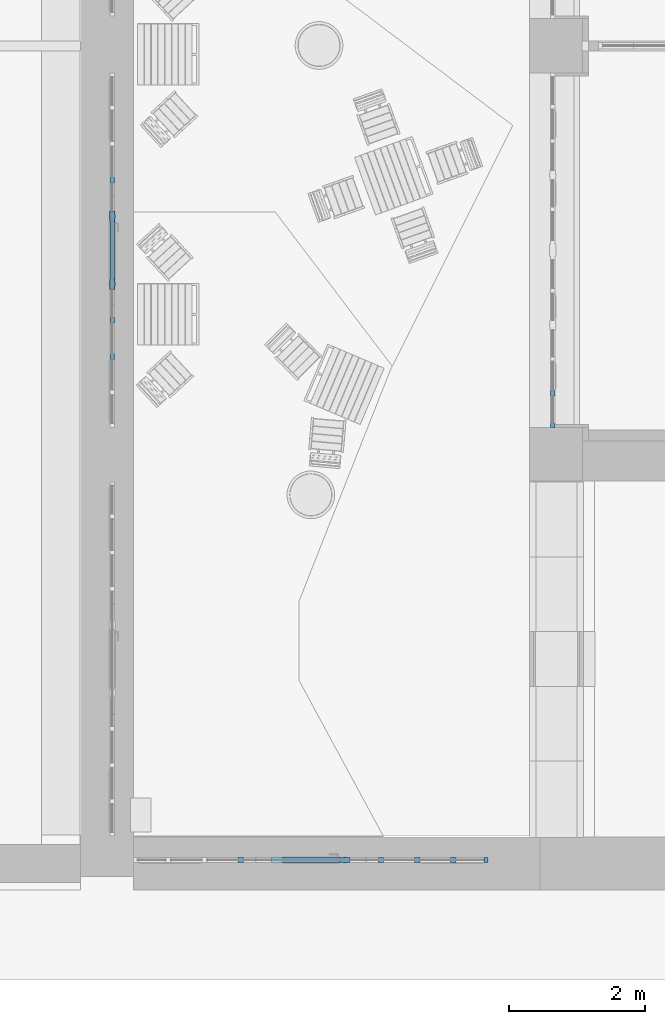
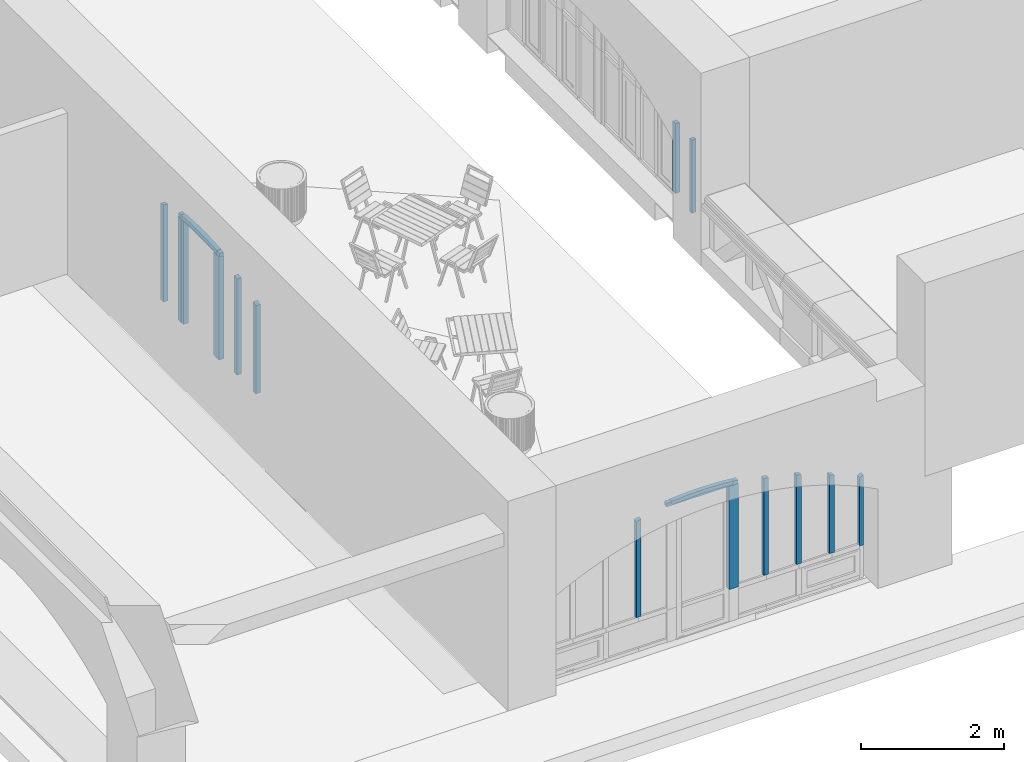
# One storey, part 3 of 88: 17 members, 3 elements without a shape of their own.
"""IFC2X3 building model written with IfcOpenShell, lengths in millimetres."""

from ifc_helpers import new_model, entity, si_unit, converted_unit, derived_unit, direction, frame, frame_2d, origin, place, context, subcontext, project, spatial, polyline, circle_curve, parameter, trimmed, segment, composite_curve, rectangle, outline, extrude, source, transform, mapped, material, type_object, type_shapes, element, aggregate, save


model = new_model("IFC2X3")

# Units and contexts
model_context = context("Model", 3, precision=0.01, world=origin(), true_north=direction((6.123031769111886e-17, 1.0)))
body_context = subcontext(model_context, "Body", "Model", "MODEL_VIEW")
ifc_project = project(units=[si_unit("LENGTHUNIT", "METRE", prefix="MILLI"), si_unit("AREAUNIT", "SQUARE_METRE"), si_unit("VOLUMEUNIT", "CUBIC_METRE"), converted_unit("PLANEANGLEUNIT", "DEGREE", entity("IfcPlaneAngleMeasure", 0.017453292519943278), si_unit("PLANEANGLEUNIT", "RADIAN"), dimensions=[0, 0, 0, 0, 0, 0, 0]), si_unit("MASSUNIT", "GRAM", prefix="KILO"), derived_unit("MASSDENSITYUNIT", [(si_unit("MASSUNIT", "GRAM", prefix="KILO"), 1), (si_unit("LENGTHUNIT", "METRE"), -3)]), derived_unit("IONCONCENTRATIONUNIT", [(si_unit("MASSUNIT", "GRAM", prefix="KILO"), 1), (si_unit("LENGTHUNIT", "METRE"), -3)]), derived_unit("MOMENTOFINERTIAUNIT", [(si_unit("LENGTHUNIT", "METRE"), 4)]), si_unit("TIMEUNIT", "SECOND"), si_unit("FREQUENCYUNIT", "HERTZ"), si_unit("THERMODYNAMICTEMPERATUREUNIT", "DEGREE_CELSIUS"), derived_unit("THERMALTRANSMITTANCEUNIT", [(si_unit("MASSUNIT", "GRAM", prefix="KILO"), 1), (si_unit("THERMODYNAMICTEMPERATUREUNIT", "KELVIN"), -1), (si_unit("TIMEUNIT", "SECOND"), -3)]), derived_unit("THERMALCONDUCTANCEUNIT", [(si_unit("MASSUNIT", "GRAM", prefix="KILO"), 1), (si_unit("THERMODYNAMICTEMPERATUREUNIT", "KELVIN"), -1), (si_unit("TIMEUNIT", "SECOND"), -3), (si_unit("LENGTHUNIT", "METRE"), 1)]), derived_unit("VOLUMETRICFLOWRATEUNIT", [(si_unit("LENGTHUNIT", "METRE", prefix="DECI"), 3), (si_unit("TIMEUNIT", "SECOND"), -1)]), derived_unit("MASSFLOWRATEUNIT", [(si_unit("MASSUNIT", "GRAM", prefix="KILO"), 1), (si_unit("TIMEUNIT", "SECOND"), -1)]), derived_unit("ROTATIONALFREQUENCYUNIT", [(si_unit("TIMEUNIT", "SECOND"), -1)]), si_unit("ELECTRICCURRENTUNIT", "AMPERE"), si_unit("ELECTRICVOLTAGEUNIT", "VOLT"), si_unit("POWERUNIT", "WATT"), si_unit("FORCEUNIT", "NEWTON", prefix="KILO"), si_unit("ILLUMINANCEUNIT", "LUX"), si_unit("LUMINOUSFLUXUNIT", "LUMEN"), si_unit("LUMINOUSINTENSITYUNIT", "CANDELA"), si_unit("ENERGYUNIT", "JOULE"), derived_unit("USERDEFINED", [(si_unit("MASSUNIT", "GRAM", prefix="KILO"), -1), (si_unit("LENGTHUNIT", "METRE"), -2), (si_unit("TIMEUNIT", "SECOND"), 3), (si_unit("LUMINOUSFLUXUNIT", "LUMEN"), 1)]), derived_unit("USERDEFINED", [(si_unit("MASSUNIT", "GRAM", prefix="KILO"), 1), (si_unit("TIMEUNIT", "SECOND"), -3), (si_unit("LENGTHUNIT", "METRE"), 3), (si_unit("ELECTRICCURRENTUNIT", "AMPERE"), -2)]), derived_unit("SOUNDPOWERUNIT", [(si_unit("MASSUNIT", "GRAM", prefix="KILO"), 1), (si_unit("TIMEUNIT", "SECOND"), -3), (si_unit("LENGTHUNIT", "METRE"), 2)]), derived_unit("SOUNDPRESSUREUNIT", [(si_unit("MASSUNIT", "GRAM", prefix="KILO"), 1), (si_unit("LENGTHUNIT", "METRE"), -1), (si_unit("TIMEUNIT", "SECOND"), -2)]), derived_unit("LINEARVELOCITYUNIT", [(si_unit("LENGTHUNIT", "METRE"), 1), (si_unit("TIMEUNIT", "SECOND"), -1)]), si_unit("PRESSUREUNIT", "PASCAL"), derived_unit("USERDEFINED", [(si_unit("MASSUNIT", "GRAM", prefix="KILO"), 1), (si_unit("LENGTHUNIT", "METRE"), -2), (si_unit("TIMEUNIT", "SECOND"), -2)]), derived_unit("LINEARFORCEUNIT", [(si_unit("MASSUNIT", "GRAM", prefix="KILO"), 1), (si_unit("TIMEUNIT", "SECOND"), -2)]), derived_unit("PLANARFORCEUNIT", [(si_unit("MASSUNIT", "GRAM", prefix="KILO"), 1), (si_unit("LENGTHUNIT", "METRE"), -1), (si_unit("TIMEUNIT", "SECOND"), -2)]), derived_unit("SPECIFICHEATCAPACITYUNIT", [(si_unit("THERMODYNAMICTEMPERATUREUNIT", "KELVIN"), -1), (si_unit("LENGTHUNIT", "METRE"), 2), (si_unit("TIMEUNIT", "SECOND"), -2)]), derived_unit("HEATFLUXDENSITYUNIT", [(si_unit("MASSUNIT", "GRAM", prefix="KILO"), 1), (si_unit("TIMEUNIT", "SECOND"), -3)]), derived_unit("HEATINGVALUEUNIT", [(si_unit("LENGTHUNIT", "METRE"), 2), (si_unit("TIMEUNIT", "SECOND"), -2)]), derived_unit("VAPORPERMEABILITYUNIT", [(si_unit("LENGTHUNIT", "METRE"), -1), (si_unit("TIMEUNIT", "SECOND"), 1)]), derived_unit("DYNAMICVISCOSITYUNIT", [(si_unit("MASSUNIT", "GRAM", prefix="KILO"), 1), (si_unit("TIMEUNIT", "SECOND"), -1), (si_unit("LENGTHUNIT", "METRE"), -1)]), derived_unit("THERMALEXPANSIONCOEFFICIENTUNIT", [(si_unit("THERMODYNAMICTEMPERATUREUNIT", "KELVIN"), -1)]), derived_unit("MODULUSOFELASTICITYUNIT", [(si_unit("MASSUNIT", "GRAM", prefix="KILO"), 1), (si_unit("LENGTHUNIT", "METRE"), -1), (si_unit("TIMEUNIT", "SECOND"), -2)]), derived_unit("ISOTHERMALMOISTURECAPACITYUNIT", [(si_unit("MASSUNIT", "GRAM", prefix="KILO"), -1), (si_unit("LENGTHUNIT", "METRE"), 3)]), derived_unit("MOISTUREDIFFUSIVITYUNIT", [(si_unit("TIMEUNIT", "SECOND"), -1), (si_unit("LENGTHUNIT", "METRE"), 2)]), derived_unit("MASSPERLENGTHUNIT", [(si_unit("MASSUNIT", "GRAM", prefix="KILO"), 1), (si_unit("LENGTHUNIT", "METRE"), -1)]), derived_unit("THERMALRESISTANCEUNIT", [(si_unit("MASSUNIT", "GRAM", prefix="KILO"), -1), (si_unit("TIMEUNIT", "SECOND"), 3), (si_unit("THERMODYNAMICTEMPERATUREUNIT", "KELVIN"), 1)]), derived_unit("ACCELERATIONUNIT", [(si_unit("LENGTHUNIT", "METRE"), 1), (si_unit("TIMEUNIT", "SECOND"), -2)]), derived_unit("ANGULARVELOCITYUNIT", [(si_unit("TIMEUNIT", "SECOND"), -1), (si_unit("PLANEANGLEUNIT", "RADIAN"), 1)]), derived_unit("LINEARSTIFFNESSUNIT", [(si_unit("MASSUNIT", "GRAM", prefix="KILO"), 1), (si_unit("TIMEUNIT", "SECOND"), -2)]), derived_unit("WARPINGCONSTANTUNIT", [(si_unit("LENGTHUNIT", "METRE"), 6)]), derived_unit("LINEARMOMENTUNIT", [(si_unit("MASSUNIT", "GRAM", prefix="KILO"), 1), (si_unit("LENGTHUNIT", "METRE"), 1), (si_unit("TIMEUNIT", "SECOND"), -2)]), derived_unit("TORQUEUNIT", [(si_unit("MASSUNIT", "GRAM", prefix="KILO"), 1), (si_unit("LENGTHUNIT", "METRE"), 2), (si_unit("TIMEUNIT", "SECOND"), -2)])], contexts=[model_context])

# Site, building, storey
site_placement = place(None, origin())
site = spatial("IfcSite", under=ifc_project, at=site_placement, Name="Default", CompositionType="ELEMENT")
building_placement = place(site_placement, origin())
building = spatial("IfcBuilding", under=site, at=building_placement, Name="Eesti Rahvusraamatukogu hoone renoveerimise projekteerimistööd", CompositionType="ELEMENT")
storey_placement = place(building_placement, origin())
storey = spatial("IfcBuildingStorey", under=building, at=storey_placement, Name="1. korrus", CompositionType="ELEMENT", Elevation=0.0)

# Curtain wall, members
curtain_wall_type_1 = type_object("IfcCurtainWallType", Name="Curtain Wall:Ak-02", PredefinedType="NOTDEFINED")
curtain_wall_1_placement = place(storey_placement, origin())
curtain_wall_1 = element("IfcCurtainWall", 1, at=curtain_wall_1_placement, inside=storey, type_object=curtain_wall_type_1, Name="Curtain Wall:Ak-02", ObjectType="Curtain Wall:Ak-02")
ifc_material = material(Name="LUMION_dark steel window frames")
member_type_1 = type_object("IfcMemberType", Name="Rectangular Mullion:NEW 80x70mm", PredefinedType="MULLION", material=ifc_material)
shared_shape_1 = source(origin(), body_context, "Body", "SweptSolid", [
    extrude(rectangle(XDim=80.0, YDim=70.0, at=frame_2d((0.0, 3.552713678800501e-15), x_axis=(1.0, 0.0))), frame((0.0, 0.0, -1190.0), z_axis=(0.0, 0.0, 1.0), x_axis=(-1.0, 0.0, 0.0)), (0.0, 0.0, 1.0), 1189.9999999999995),
])
type_shapes(member_type_1, [shared_shape_1])
member_1_placement = place(curtain_wall_1_placement, frame((-36440.0, 7290.0, 2030.0), z_axis=(0.0, 0.0, -1.0), x_axis=(0.0, -1.0, 0.0)))
member_1 = element("IfcMember", 2, at=member_1_placement, type_object=member_type_1, material=ifc_material, Name="Rectangular Mullion:NEW 80x70mm", ObjectType="Rectangular Mullion:NEW 80x70mm", context=body_context, shape_type="MappedRepresentation", body=[
    mapped(shared_shape_1, transform((0.0, 0.0, 0.0), scale=1.0)),
])
member_type_2 = type_object("IfcMemberType", Name="Rectangular Mullion:NEW 60x70mm", PredefinedType="MULLION", material=ifc_material)
shared_shape_2 = source(origin(), body_context, "Body", "SweptSolid", [
    extrude(rectangle(XDim=60.0, YDim=70.0, at=frame_2d((0.0, 3.552713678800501e-15), x_axis=(1.0, 0.0))), frame((-30.0, 0.0, -1250.0), z_axis=(0.0, 0.0, 1.0), x_axis=(-1.0, 0.0, 0.0)), (0.0, 0.0, 1.0), 1249.9999999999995),
])
type_shapes(member_type_2, [shared_shape_2])
member_2_placement = place(curtain_wall_1_placement, frame((-36440.0, 6790.0, 1970.0), z_axis=(0.0, 0.0, -1.0), x_axis=(0.0, -1.0, 0.0)))
member_2 = element("IfcMember", 3, at=member_2_placement, type_object=member_type_2, material=ifc_material, Name="Rectangular Mullion:NEW 60x70mm", ObjectType="Rectangular Mullion:NEW 60x70mm", context=body_context, shape_type="MappedRepresentation", body=[
    mapped(shared_shape_2, transform((0.0, 0.0, 0.0), scale=1.0)),
])
aggregate(curtain_wall_1, [member_1, member_2])

curtain_wall_type_2 = type_object("IfcCurtainWallType", Name="Curtain Wall:Ak-05*", PredefinedType="NOTDEFINED")
curtain_wall_2_placement = place(storey_placement, origin())
curtain_wall_2 = element("IfcCurtainWall", 4, at=curtain_wall_2_placement, inside=storey, type_object=curtain_wall_type_2, Name="Curtain Wall:Ak-05*", ObjectType="Curtain Wall:Ak-05*")
member_type_3 = type_object("IfcMemberType", Name="Rectangular Mullion:NEW 60x70mm", PredefinedType="MULLION", material=ifc_material)
shared_shape_3 = source(origin(), body_context, "Body", "SweptSolid", [
    extrude(outline(composite_curve([segment(polyline([(-75.01710683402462, -495.2424237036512), (-15.017106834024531, -495.2424237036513)]), True, "CONTINUOUS"), segment(trimmed(circle_curve(frame_2d((5448.26345993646, -495.24242370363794), x_axis=(-0.9836101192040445, 0.1803084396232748)), 5463.280566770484), [parameter(3.5622212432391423e-13)], [parameter(10.387726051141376)], True, "PARAMETER"), False, "CONTINUOUS"), segment(polyline([(74.52541041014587, 489.83317051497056), (15.508803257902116, 500.65167689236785)]), True, "CONTINUOUS"), segment(trimmed(circle_curve(frame_2d((5448.26345993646, -495.24242370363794), x_axis=(-0.9836101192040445, 0.1803084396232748)), 5523.280566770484), [parameter(3.5622212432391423e-13)], [parameter(10.387726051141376)], True, "PARAMETER"), True, "CONTINUOUS")], self_intersect=False)), frame((-75.01710683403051, -35.0, -495.2424237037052), z_axis=(0.0, 1.0, 0.0), x_axis=(-0.9836101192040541, 0.0, 0.18030843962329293)), (0.0, 0.0, 1.0), 69.99999999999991),
])
type_shapes(member_type_3, [shared_shape_3])
member_3_placement = place(curtain_wall_2_placement, frame((-42905.0, 8890.0, 2327.321965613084), z_axis=(0.0, -0.9958941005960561, -0.09052591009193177), x_axis=(0.0, -0.09052591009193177, 0.9958941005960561)))
member_3 = element("IfcMember", 5, at=member_3_placement, type_object=member_type_3, material=ifc_material, Name="Rectangular Mullion:NEW 60x70mm", ObjectType="Rectangular Mullion:NEW 60x70mm", context=body_context, shape_type="MappedRepresentation", body=[
    mapped(shared_shape_3, transform((0.0, 0.0, 0.0), scale=1.0)),
])
member_type_4 = type_object("IfcMemberType", Name="Rectangular Mullion:NEW 150x90mm", PredefinedType="MULLION", material=ifc_material)
shared_shape_4 = source(origin(), body_context, "Body", "SweptSolid", [
    extrude(outline(polyline([(40.0, -20.0), (45.0, -20.0), (45.0, 20.0), (40.0, 20.0), (40.0, 75.0), (-40.0, 75.0), (-40.0, 20.0), (-45.0, 20.0), (-45.0, -20.0), (-40.0, -20.0), (-40.0, -75.0), (40.0, -75.0), (40.0, -20.0)])), frame((0.0, 0.0, -1760.0), z_axis=(0.0, 0.0, 1.0), x_axis=(0.0, -1.0, 0.0)), (0.0, 0.0, 1.0), 1759.9999999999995),
])
type_shapes(member_type_4, [shared_shape_4])
member_4_placement = place(curtain_wall_2_placement, frame((-42905.0, 9890.0, 500.0), z_axis=(0.0, 0.0, -1.0), x_axis=(0.0, -1.0, 0.0)))
member_4 = element("IfcMember", 6, at=member_4_placement, type_object=member_type_4, material=ifc_material, Name="Rectangular Mullion:NEW 150x90mm", ObjectType="Rectangular Mullion:NEW 150x90mm", context=body_context, shape_type="MappedRepresentation", body=[
    mapped(shared_shape_4, transform((0.0, 0.0, 0.0), scale=1.0)),
])
member_5_placement = place(curtain_wall_2_placement, frame((-42905.0, 8890.0, 500.0), z_axis=(0.0, 0.0, -1.0), x_axis=(0.0, -1.0, 0.0)))
member_5 = element("IfcMember", 7, at=member_5_placement, type_object=member_type_4, material=ifc_material, Name="Rectangular Mullion:NEW 150x90mm", ObjectType="Rectangular Mullion:NEW 150x90mm", context=body_context, shape_type="MappedRepresentation", body=[
    mapped(shared_shape_4, transform((0.0, 0.0, 0.0), scale=1.0)),
])
member_type_5 = type_object("IfcMemberType", Name="Rectangular Mullion:NEW 60x70mm", PredefinedType="MULLION", material=ifc_material)
shared_shape_5 = source(origin(), body_context, "Body", "SweptSolid", [
    extrude(rectangle(XDim=60.0, YDim=70.0, at=frame_2d((0.0, -3.552713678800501e-15), x_axis=(1.0, 0.0))), frame((0.0, 0.0, -1150.0), z_axis=(0.0, 0.0, 1.0), x_axis=(-1.0, 0.0, 0.0)), (0.0, 0.0, 1.0), 1149.9999999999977),
])
type_shapes(member_type_5, [shared_shape_5])
member_6_placement = place(curtain_wall_2_placement, frame((-42905.0, 8815.0, 2290.0), z_axis=(0.0, -1.0, 0.0), x_axis=(0.0, 0.0, 1.0)))
member_6 = element("IfcMember", 8, at=member_6_placement, type_object=member_type_5, material=ifc_material, Name="Rectangular Mullion:NEW 60x70mm", ObjectType="Rectangular Mullion:NEW 60x70mm", context=body_context, shape_type="MappedRepresentation", body=[
    mapped(shared_shape_5, transform((0.0, 0.0, 0.0), scale=1.0)),
])
member_type_6 = type_object("IfcMemberType", Name="Rectangular Mullion:NEW 80x70mm", PredefinedType="MULLION", material=ifc_material)
shared_shape_6 = source(origin(), body_context, "Body", "SweptSolid", [
    extrude(outline(composite_curve([segment(polyline([(-914.4623251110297, -43.389290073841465), (595.9947117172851, -43.389290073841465)]), True, "CONTINUOUS"), segment(trimmed(circle_curve(frame_2d((-4627.7428918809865, 1556.6107099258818), x_axis=(0.9256428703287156, -0.37839830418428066)), 5463.280566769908), [parameter(5.204987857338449)], [parameter(5.828569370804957)], True, "PARAMETER"), True, "CONTINUOUS"), segment(trimmed(circle_curve(frame_2d((-4627.74289188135, 1556.6107099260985), x_axis=(0.9592847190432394, -0.28244083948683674)), 5463.280566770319), [parameter(0.0)], [parameter(0.25187197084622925)], True, "PARAMETER"), True, "CONTINUOUS"), segment(polyline([(619.8312668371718, 36.61070992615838), (-914.4623251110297, 36.610709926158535)]), True, "CONTINUOUS"), segment(polyline([(-914.4623251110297, 36.610709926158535), (-914.4623251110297, -43.389290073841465)]), True, "CONTINUOUS")], self_intersect=False)), frame((-3.389290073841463, -35.0, -914.4623251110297), z_axis=(0.0, 1.0, 0.0), x_axis=(0.0, 0.0, -1.0)), (0.0, 0.0, 1.0), 69.99999999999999),
])
type_shapes(member_type_6, [shared_shape_6])
member_7_placement = place(curtain_wall_2_placement, frame((-42905.0, 7830.0, 540.0), z_axis=(0.0, 0.0, -1.0), x_axis=(0.0, -1.0, 0.0)))
member_7 = element("IfcMember", 9, at=member_7_placement, type_object=member_type_6, material=ifc_material, Name="Rectangular Mullion:NEW 80x70mm", ObjectType="Rectangular Mullion:NEW 80x70mm", context=body_context, shape_type="MappedRepresentation", body=[
    mapped(shared_shape_6, transform((0.0, 0.0, 0.0), scale=1.0)),
])
member_type_7 = type_object("IfcMemberType", Name="Rectangular Mullion:NEW 80x70mm", PredefinedType="MULLION", material=ifc_material)
shared_shape_7 = source(origin(), body_context, "Body", "SweptSolid", [
    extrude(outline(composite_curve([segment(polyline([(-991.582057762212, -42.23780049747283), (652.61201854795, -42.23780049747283)]), True, "CONTINUOUS"), segment(trimmed(circle_curve(frame_2d((-4704.862624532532, 1027.7621995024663), x_axis=(0.9592847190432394, -0.28244083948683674)), 5463.280566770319), [parameter(5.111376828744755)], [parameter(5.658307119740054)], True, "PARAMETER"), True, "CONTINUOUS"), segment(trimmed(circle_curve(frame_2d((-4704.862624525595, 1027.7621995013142), x_axis=(0.9824581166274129, -0.18648337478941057)), 5463.2805667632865), [parameter(0.0)], [parameter(0.3073932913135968)], True, "PARAMETER"), True, "CONTINUOUS"), segment(polyline([(667.9703852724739, 37.76219950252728), (-991.582057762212, 37.76219950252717)]), True, "CONTINUOUS"), segment(polyline([(-991.582057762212, 37.76219950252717), (-991.582057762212, -42.23780049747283)]), True, "CONTINUOUS")], self_intersect=False)), frame((-2.237800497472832, -35.0, -991.582057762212), z_axis=(0.0, 1.0, 0.0), x_axis=(0.0, 0.0, -1.0)), (0.0, 0.0, 1.0), 70.00000000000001),
])
type_shapes(member_type_7, [shared_shape_7])
member_8_placement = place(curtain_wall_2_placement, frame((-42905.0, 8360.0, 540.0), z_axis=(0.0, 0.0, -1.0), x_axis=(0.0, -1.0, 0.0)))
member_8 = element("IfcMember", 10, at=member_8_placement, type_object=member_type_7, material=ifc_material, Name="Rectangular Mullion:NEW 80x70mm", ObjectType="Rectangular Mullion:NEW 80x70mm", context=body_context, shape_type="MappedRepresentation", body=[
    mapped(shared_shape_7, transform((0.0, 0.0, 0.0), scale=1.0)),
])
member_type_8 = type_object("IfcMemberType", Name="Rectangular Mullion:NEW 80x70mm", PredefinedType="MULLION", material=ifc_material)
shared_shape_8 = source(origin(), body_context, "Body", "SweptSolid", [
    extrude(outline(composite_curve([segment(polyline([(-991.5820577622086, -37.76219950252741), (667.9703852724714, -37.76219950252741)]), True, "CONTINUOUS"), segment(trimmed(circle_curve(frame_2d((-4704.862624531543, -1027.7621995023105), x_axis=(0.9891368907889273, 0.14699731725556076)), 5463.280566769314), [parameter(1.9872788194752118)], [parameter(2.294672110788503)], True, "PARAMETER"), True, "CONTINUOUS"), segment(trimmed(circle_curve(frame_2d((-4704.862624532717, -1027.7621995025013), x_axis=(0.9824581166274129, 0.18648337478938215)), 5463.280566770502), [parameter(0.0)], [parameter(0.546930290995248)], True, "PARAMETER"), True, "CONTINUOUS"), segment(polyline([(652.6120185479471, 42.23780049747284), (-991.5820577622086, 42.23780049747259)]), True, "CONTINUOUS"), segment(polyline([(-991.5820577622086, 42.23780049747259), (-991.5820577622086, -37.76219950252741)]), True, "CONTINUOUS")], self_intersect=False)), frame((2.237800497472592, -35.0, -991.5820577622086), z_axis=(0.0, 1.0, 0.0), x_axis=(0.0, 0.0, -1.0)), (0.0, 0.0, 1.0), 69.99999999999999),
])
type_shapes(member_type_8, [shared_shape_8])
member_9_placement = place(curtain_wall_2_placement, frame((-42905.0, 10420.0, 540.0), z_axis=(0.0, 0.0, -1.0), x_axis=(0.0, -1.0, 0.0)))
member_9 = element("IfcMember", 11, at=member_9_placement, type_object=member_type_8, material=ifc_material, Name="Rectangular Mullion:NEW 80x70mm", ObjectType="Rectangular Mullion:NEW 80x70mm", context=body_context, shape_type="MappedRepresentation", body=[
    mapped(shared_shape_8, transform((0.0, 0.0, 0.0), scale=1.0)),
])
aggregate(curtain_wall_2, [member_3, member_4, member_5, member_6, member_7, member_8, member_9])

curtain_wall_type_3 = type_object("IfcCurtainWallType", Name="Curtain Wall:Ak-05", PredefinedType="NOTDEFINED")
curtain_wall_3_placement = place(storey_placement, origin())
curtain_wall_3 = element("IfcCurtainWall", 12, at=curtain_wall_3_placement, inside=storey, type_object=curtain_wall_type_3, Name="Curtain Wall:Ak-05", ObjectType="Curtain Wall:Ak-05")
member_type_9 = type_object("IfcMemberType", Name="Rectangular Mullion:NEW 60x70mm", PredefinedType="MULLION", material=ifc_material)
shared_shape_9 = source(origin(), body_context, "Body", "SweptSolid", [
    extrude(outline(composite_curve([segment(polyline([(-75.01710683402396, -495.2424237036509), (-15.017106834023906, -495.24242370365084)]), True, "CONTINUOUS"), segment(trimmed(circle_curve(frame_2d((5448.2634599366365, -495.24242370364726), x_axis=(-0.9836101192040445, 0.1803084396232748)), 5463.28056677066), [parameter(3.5622212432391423e-13)], [parameter(10.38772605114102)], True, "PARAMETER"), False, "CONTINUOUS"), segment(polyline([(74.52541041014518, 489.83317051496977), (15.508803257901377, 500.6516768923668)]), True, "CONTINUOUS"), segment(trimmed(circle_curve(frame_2d((5448.2634599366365, -495.24242370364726), x_axis=(-0.9836101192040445, 0.1803084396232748)), 5523.28056677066), [parameter(3.5622212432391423e-13)], [parameter(10.38772605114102)], True, "PARAMETER"), True, "CONTINUOUS")], self_intersect=False)), frame((-75.01710683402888, -35.0, -495.2424237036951), z_axis=(0.0, 1.0, 0.0), x_axis=(-0.9836101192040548, 0.0, 0.18030843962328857)), (0.0, 0.0, 1.0), 69.99999999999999),
])
type_shapes(member_type_9, [shared_shape_9])
member_10_placement = place(curtain_wall_3_placement, frame((-40490.0, 440.0, 2327.321965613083), z_axis=(-0.9958941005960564, 0.0, -0.09052591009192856), x_axis=(-0.09052591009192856, 0.0, 0.9958941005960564)))
member_10 = element("IfcMember", 13, at=member_10_placement, type_object=member_type_9, material=ifc_material, Name="Rectangular Mullion:NEW 60x70mm", ObjectType="Rectangular Mullion:NEW 60x70mm", context=body_context, shape_type="MappedRepresentation", body=[
    mapped(shared_shape_9, transform((0.0, 0.0, 0.0), scale=1.0)),
])
member_type_10 = type_object("IfcMemberType", Name="Rectangular Mullion:NEW 150x90mm", PredefinedType="MULLION", material=ifc_material)
shared_shape_10 = source(origin(), body_context, "Body", "SweptSolid", [
    extrude(outline(polyline([(20.0, -40.0), (75.0, -40.0), (75.0, 40.0), (20.0, 40.0), (20.0, 45.0), (-20.0, 45.0), (-20.0, 40.0), (-75.0, 40.0), (-75.0, -40.0), (-20.0, -40.0), (-20.0, -45.0), (20.0, -45.0), (20.0, -40.0)])), frame((0.0, 0.0, -1760.0), z_axis=(0.0, 0.0, 1.0), x_axis=(-1.0, 0.0, 0.0)), (0.0, 0.0, 1.0), 1759.9999999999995),
])
type_shapes(member_type_10, [shared_shape_10])
member_11_placement = place(curtain_wall_3_placement, frame((-39490.0, 440.0, 500.0), z_axis=(0.0, 0.0, -1.0), x_axis=(-1.0, 0.0, 0.0)))
member_11 = element("IfcMember", 14, at=member_11_placement, type_object=member_type_10, material=ifc_material, Name="Rectangular Mullion:NEW 150x90mm", ObjectType="Rectangular Mullion:NEW 150x90mm", context=body_context, shape_type="MappedRepresentation", body=[
    mapped(shared_shape_10, transform((0.0, 0.0, 0.0), scale=1.0)),
])
member_type_11 = type_object("IfcMemberType", Name="Rectangular Mullion:NEW 60x70mm", PredefinedType="MULLION", material=ifc_material)
shared_shape_11 = source(origin(), body_context, "Body", "SweptSolid", [
    extrude(outline(polyline([(-608.8836344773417, -30.0), (590.887021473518, -30.0), (590.887021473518, 30.0), (-572.8904084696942, 30.0), (-608.8836344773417, -30.0)])), frame((-30.0, -35.0, -608.8836344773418), z_axis=(0.0, 1.0, 0.0), x_axis=(0.0, 0.0, -1.0)), (0.0, 0.0, 1.0), 69.99999999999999),
])
type_shapes(member_type_11, [shared_shape_11])
member_12_placement = place(curtain_wall_3_placement, frame((-37390.0, 440.0, 1699.7706559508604)))
member_12 = element("IfcMember", 15, at=member_12_placement, type_object=member_type_11, material=ifc_material, Name="Rectangular Mullion:NEW 60x70mm", ObjectType="Rectangular Mullion:NEW 60x70mm", context=body_context, shape_type="MappedRepresentation", body=[
    mapped(shared_shape_11, transform((0.0, 0.0, 0.0), scale=1.0)),
])
member_type_12 = type_object("IfcMemberType", Name="Rectangular Mullion:NEW 60x70mm", PredefinedType="MULLION", material=ifc_material)
shared_shape_12 = source(origin(), body_context, "Body", "SweptSolid", [
    extrude(rectangle(XDim=60.0, YDim=70.0, at=frame_2d((0.0, -3.552713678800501e-15), x_axis=(1.0, 0.0))), frame((0.0, 0.0, -1150.0), z_axis=(0.0, 0.0, 1.0), x_axis=(-1.0, 0.0, 0.0)), (0.0, 0.0, 1.0), 1149.9999999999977),
])
type_shapes(member_type_12, [shared_shape_12])
member_13_placement = place(curtain_wall_3_placement, frame((-40565.0, 440.0, 2290.0), z_axis=(-1.0, 0.0, 0.0), x_axis=(0.0, 0.0, 1.0)))
member_13 = element("IfcMember", 16, at=member_13_placement, type_object=member_type_12, material=ifc_material, Name="Rectangular Mullion:NEW 60x70mm", ObjectType="Rectangular Mullion:NEW 60x70mm", context=body_context, shape_type="MappedRepresentation", body=[
    mapped(shared_shape_12, transform((0.0, 0.0, 0.0), scale=1.0)),
])
member_type_13 = type_object("IfcMemberType", Name="Rectangular Mullion:NEW 80x70mm", PredefinedType="MULLION", material=ifc_material)
shared_shape_13 = source(origin(), body_context, "Body", "SweptSolid", [
    extrude(outline(composite_curve([segment(polyline([(-991.5820577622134, -42.23780049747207), (652.6120185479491, -42.23780049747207)]), True, "CONTINUOUS"), segment(trimmed(circle_curve(frame_2d((-4704.862624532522, 1027.7621995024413), x_axis=(0.9592847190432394, -0.28244083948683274)), 5463.280566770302), [parameter(5.111376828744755)], [parameter(5.658307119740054)], True, "PARAMETER"), True, "CONTINUOUS"), segment(trimmed(circle_curve(frame_2d((-4704.862624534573, 1027.7621995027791), x_axis=(0.9824581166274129, -0.18648337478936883)), 5463.2805667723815), [parameter(0.0)], [parameter(0.30739329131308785)], True, "PARAMETER"), True, "CONTINUOUS"), segment(polyline([(667.9703852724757, 37.762199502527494), (-991.5820577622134, 37.76219950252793)]), True, "CONTINUOUS"), segment(polyline([(-991.5820577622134, 37.76219950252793), (-991.5820577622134, -42.23780049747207)]), True, "CONTINUOUS")], self_intersect=False)), frame((-2.2378004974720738, -35.0, -991.5820577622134), z_axis=(0.0, 1.0, 0.0), x_axis=(0.0, 0.0, -1.0)), (0.0, 0.0, 1.0), 70.00000000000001),
])
type_shapes(member_type_13, [shared_shape_13])
member_14_placement = place(curtain_wall_3_placement, frame((-41020.0, 440.0, 540.0), z_axis=(0.0, 0.0, -1.0), x_axis=(-1.0, 0.0, 0.0)))
member_14 = element("IfcMember", 17, at=member_14_placement, type_object=member_type_13, material=ifc_material, Name="Rectangular Mullion:NEW 80x70mm", ObjectType="Rectangular Mullion:NEW 80x70mm", context=body_context, shape_type="MappedRepresentation", body=[
    mapped(shared_shape_13, transform((0.0, 0.0, 0.0), scale=1.0)),
])
member_type_14 = type_object("IfcMemberType", Name="Rectangular Mullion:NEW 80x70mm", PredefinedType="MULLION", material=ifc_material)
shared_shape_14 = source(origin(), body_context, "Body", "SweptSolid", [
    extrude(outline(composite_curve([segment(polyline([(-991.5820577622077, -37.762199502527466), (667.9703852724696, -37.762199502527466)]), True, "CONTINUOUS"), segment(trimmed(circle_curve(frame_2d((-4704.862624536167, -1027.7621995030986), x_axis=(0.9891368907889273, 0.14699731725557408)), 5463.280566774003), [parameter(1.987278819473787)], [parameter(2.294672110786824)], True, "PARAMETER"), True, "CONTINUOUS"), segment(trimmed(circle_curve(frame_2d((-4704.862624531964, -1027.7621995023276), x_axis=(0.9824581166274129, 0.18648337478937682)), 5463.28056676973), [parameter(0.0)], [parameter(0.5469302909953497)], True, "PARAMETER"), True, "CONTINUOUS"), segment(polyline([(652.6120185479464, 42.23780049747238), (-991.5820577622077, 42.237800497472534)]), True, "CONTINUOUS"), segment(polyline([(-991.5820577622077, 42.237800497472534), (-991.5820577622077, -37.762199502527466)]), True, "CONTINUOUS")], self_intersect=False)), frame((2.237800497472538, -35.0, -991.5820577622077), z_axis=(0.0, 1.0, 0.0), x_axis=(0.0, 0.0, -1.0)), (0.0, 0.0, 1.0), 70.00000000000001),
])
type_shapes(member_type_14, [shared_shape_14])
member_15_placement = place(curtain_wall_3_placement, frame((-38960.0, 440.0, 540.0), z_axis=(0.0, 0.0, -1.0), x_axis=(-1.0, 0.0, 0.0)))
member_15 = element("IfcMember", 18, at=member_15_placement, type_object=member_type_14, material=ifc_material, Name="Rectangular Mullion:NEW 80x70mm", ObjectType="Rectangular Mullion:NEW 80x70mm", context=body_context, shape_type="MappedRepresentation", body=[
    mapped(shared_shape_14, transform((0.0, 0.0, 0.0), scale=1.0)),
])
member_type_15 = type_object("IfcMemberType", Name="Rectangular Mullion:NEW 80x70mm", PredefinedType="MULLION", material=ifc_material)
shared_shape_15 = source(origin(), body_context, "Body", "SweptSolid", [
    extrude(outline(composite_curve([segment(polyline([(-914.4623251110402, -36.6107099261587), (619.8312668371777, -36.6107099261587)]), True, "CONTINUOUS"), segment(trimmed(circle_curve(frame_2d((-4627.742891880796, -1556.6107099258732), x_axis=(0.9824581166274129, 0.18648337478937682)), 5463.28056676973), [parameter(5.406435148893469)], [parameter(5.658307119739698)], True, "PARAMETER"), True, "CONTINUOUS"), segment(trimmed(circle_curve(frame_2d((-4627.742891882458, -1556.6107099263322), x_axis=(0.9592847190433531, 0.28244083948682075)), 5463.280566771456), [parameter(0.0)], [parameter(0.6235815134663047)], True, "PARAMETER"), True, "CONTINUOUS"), segment(polyline([(595.9947117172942, 43.389290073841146), (-914.4623251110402, 43.3892900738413)]), True, "CONTINUOUS"), segment(polyline([(-914.4623251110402, 43.3892900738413), (-914.4623251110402, -36.6107099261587)]), True, "CONTINUOUS")], self_intersect=False)), frame((3.3892900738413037, -35.0, -914.4623251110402), z_axis=(0.0, 1.0, 0.0), x_axis=(0.0, 0.0, -1.0)), (0.0, 0.0, 1.0), 70.00000000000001),
])
type_shapes(member_type_15, [shared_shape_15])
member_16_placement = place(curtain_wall_3_placement, frame((-38430.0, 440.0, 540.0), z_axis=(0.0, 0.0, -1.0), x_axis=(-1.0, 0.0, 0.0)))
member_16 = element("IfcMember", 19, at=member_16_placement, type_object=member_type_15, material=ifc_material, Name="Rectangular Mullion:NEW 80x70mm", ObjectType="Rectangular Mullion:NEW 80x70mm", context=body_context, shape_type="MappedRepresentation", body=[
    mapped(shared_shape_15, transform((0.0, 0.0, 0.0), scale=1.0)),
])
member_type_16 = type_object("IfcMemberType", Name="Rectangular Mullion:NEW 80x70mm", PredefinedType="MULLION", material=ifc_material)
shared_shape_16 = source(origin(), body_context, "Body", "SweptSolid", [
    extrude(outline(composite_curve([segment(polyline([(-802.4490834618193, -35.459220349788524), (548.3531444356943, -35.459220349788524)]), True, "CONTINUOUS"), segment(trimmed(circle_curve(frame_2d((-4515.729650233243, -2085.4592203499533), x_axis=(0.9592847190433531, 0.2824408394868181)), 5463.280566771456), [parameter(5.632742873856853)], [parameter(5.828569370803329)], True, "PARAMETER"), True, "CONTINUOUS"), segment(trimmed(circle_curve(frame_2d((-4515.729650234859, -2085.4592203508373), x_axis=(0.9256428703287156, 0.3783983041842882)), 5463.280566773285), [parameter(0.0)], [parameter(0.7122563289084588)], True, "PARAMETER"), True, "CONTINUOUS"), segment(polyline([(515.2279674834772, 44.54077965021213), (-802.4490834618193, 44.540779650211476)]), True, "CONTINUOUS"), segment(polyline([(-802.4490834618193, 44.540779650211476), (-802.4490834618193, -35.459220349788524)]), True, "CONTINUOUS")], self_intersect=False)), frame((4.540779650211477, -35.0, -802.4490834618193), z_axis=(0.0, 1.0, 0.0), x_axis=(0.0, 0.0, -1.0)), (0.0, 0.0, 1.0), 69.99999999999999),
])
type_shapes(member_type_16, [shared_shape_16])
member_17_placement = place(curtain_wall_3_placement, frame((-37900.0, 440.0, 540.0), z_axis=(0.0, 0.0, -1.0), x_axis=(-1.0, 0.0, 0.0)))
member_17 = element("IfcMember", 20, at=member_17_placement, type_object=member_type_16, material=ifc_material, Name="Rectangular Mullion:NEW 80x70mm", ObjectType="Rectangular Mullion:NEW 80x70mm", context=body_context, shape_type="MappedRepresentation", body=[
    mapped(shared_shape_16, transform((0.0, 0.0, 0.0), scale=1.0)),
])
aggregate(curtain_wall_3, [member_10, member_11, member_12, member_13, member_14, member_15, member_16, member_17])

save(model, "model.ifc")
